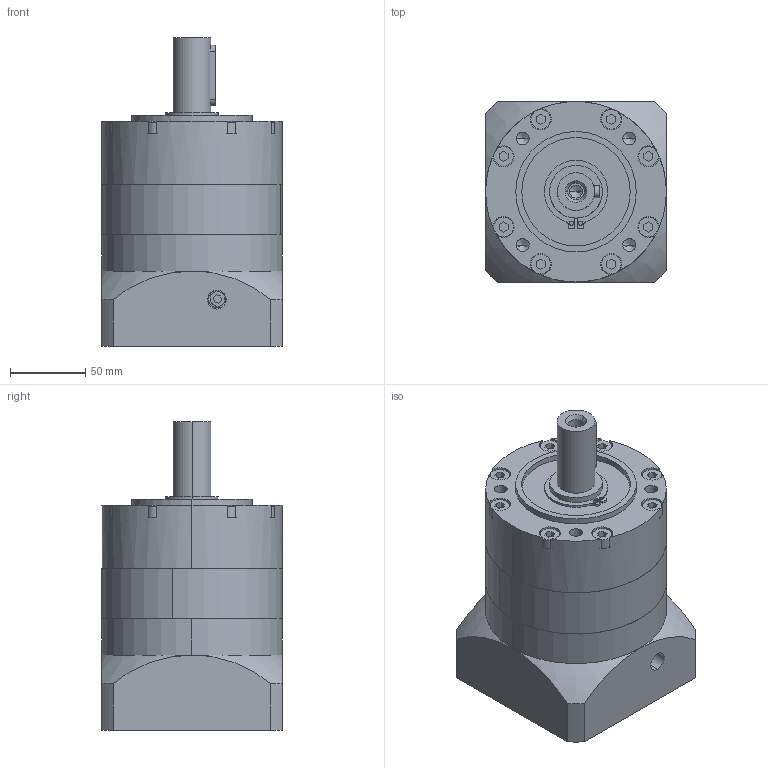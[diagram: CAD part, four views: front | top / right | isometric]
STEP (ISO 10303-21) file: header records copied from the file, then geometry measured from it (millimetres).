
FILE_DESCRIPTION (( 'STEP AP203' ), '1' );
FILE_NAME ('PLE120-L1-5-110.STEP', '2020-11-28T07:27:30', ( 'USER-' ), ( 'MS' ), 'SwSTEP 2.0', 'SolidWorks 2018', '' );
FILE_SCHEMA (( 'CONFIG_CONTROL_DESIGN' ));
Length unit declared in the file: millimetre
Products named in the file (8): PRF120 _________________^PLE120-L1(2)_PLE120-L1; PRF120 ___w__^PLE120-L1(2)_PLE120-L1; PRL120 ___w__^PLE120-L1(2)_PLE120-L1; ____-6007 40x68x15^PLE120-L1(2)_PLE120-L1; __________ M6x20^PLE120-L1(2)_PLE120-L1; ______ 8x7x40^PLE120-L1(2)_PLE120-L1; PRF120 ______-____-____^PLE120-L1(2)_PLE120-L1; PLE120-L1-5-110
Assembly tree (7 placements, depth 2):
  PLE120-L1-5-110
    PRL120 ___w__^PLE120-L1(2)_PLE120-L1
    __________ M6x20^PLE120-L1(2)_PLE120-L1
    PRF120 ______-____-____^PLE120-L1(2)_PLE120-L1
    PRF120 _________________^PLE120-L1(2)_PLE120-L1
    PRF120 ___w__^PLE120-L1(2)_PLE120-L1
    ______ 8x7x40^PLE120-L1(2)_PLE120-L1
    ____-6007 40x68x15^PLE120-L1(2)_PLE120-L1
Bounding box: 120 x 120 x 205 mm (x, y, z)
Volume: 1651985.2 mm3; surface area: 225595.7 mm2
Topology: 7 solids, 15 shells, 620 faces, 1704 edges, 1066 vertices
Faces by surface type: cylinder 203, plane 191, sphere 144, torus 52, cone 30
Entity records: 25407 total; most frequent: CARTESIAN_POINT 9353, ORIENTED_EDGE 3228, DIRECTION 3205, EDGE_CURVE 1614, AXIS2_PLACEMENT_3D 1364, VERTEX_POINT 1042, CIRCLE 734, EDGE_LOOP 706
